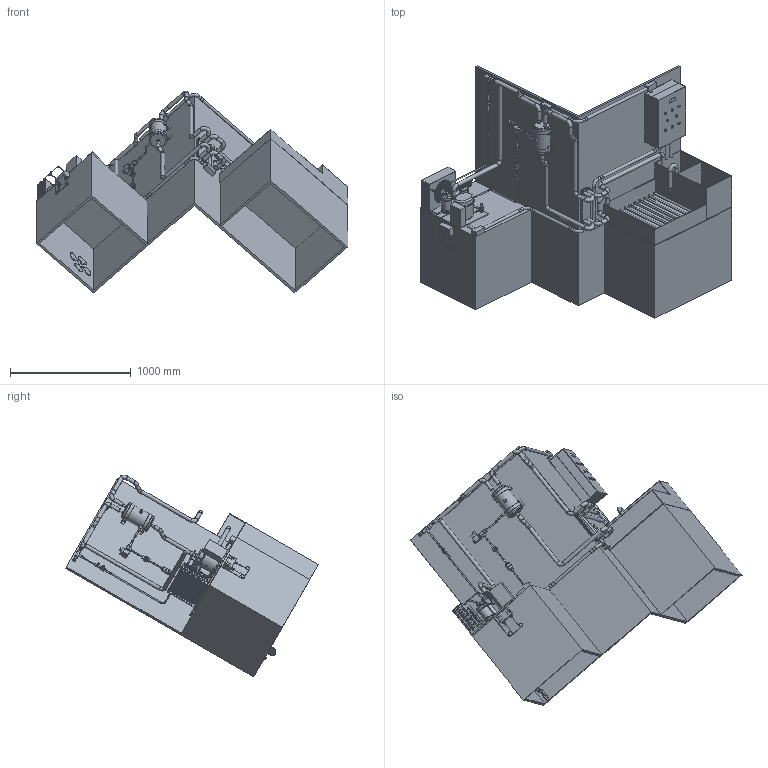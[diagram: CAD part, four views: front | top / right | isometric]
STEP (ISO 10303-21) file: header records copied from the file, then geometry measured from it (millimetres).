
FILE_DESCRIPTION((''),'2;1');
FILE_NAME('E:\Users\Franzi-CAD\Desktop\1 Sistema de Refrigeração Industrial - 3D v3.stp','2015-06-04T11:22:03',('Franzi-CAD'),(''),'Autodesk Inventor 2012','Autodesk Inventor 2012','');
FILE_SCHEMA(('AUTOMOTIVE_DESIGN { 1 0 10303 214 1 1 1 1 }'));
Length unit declared in the file: millimetre
Products named in the file (8): 1 Sistema de Refrigeração Industrial - 3D v3; serpentina; expansÃ£o; VÃ¡lvula GBC; _U1; _U0
Assembly tree (11 placements, depth 3):
  1 Sistema de Refrigeração Industrial - 3D v3
    serpentina
      expansÃ£o  x2
      serpentina
    VÃ¡lvula GBC
    _U1
      _U0  x4
    1 Sistema de Refrigeração Industrial - 3D v3
Bounding box: 2580.94 x 2096.25 x 1672.59 mm (x, y, z)
Volume: 195014240.8 mm3; surface area: 24124282.8 mm2
Topology: 440 solids, 459 shells, 2269 faces, 3827 edges, 2377 vertices
Faces by surface type: plane 1322, cylinder 511, torus 302, cone 75, bspline 47, sphere 12
Full cylindrical faces by diameter (mm): 1.5 x9, 1.555 x1, 2.332 x11, 4.936 x13, 5 x2, 5.729 x5, 6.35 x2, 7.37 x2, 7.404 x44, 8 x4, 8.1 x5, 8.55 x4, 9 x2, 9.5 x5, 9.52 x3, 9.525 x11, 9.635 x5, 9.7 x5, 10.155 x5, 10.649 x1, 10.8 x1, 11.019 x3, 11.1 x5, 12.395 x2, 12.627 x1, 12.667 x1, 12.7 x41, 12.933 x3, 13 x30, 13.065 x2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
Entity records: 57111 total; most frequent: CARTESIAN_POINT 16046, DIRECTION 8789, ORIENTED_EDGE 5679, AXIS2_PLACEMENT_3D 3774, EDGE_LOOP 2959, EDGE_CURVE 2849, FACE_OUTER_BOUND 2206, ADVANCED_FACE 2206
